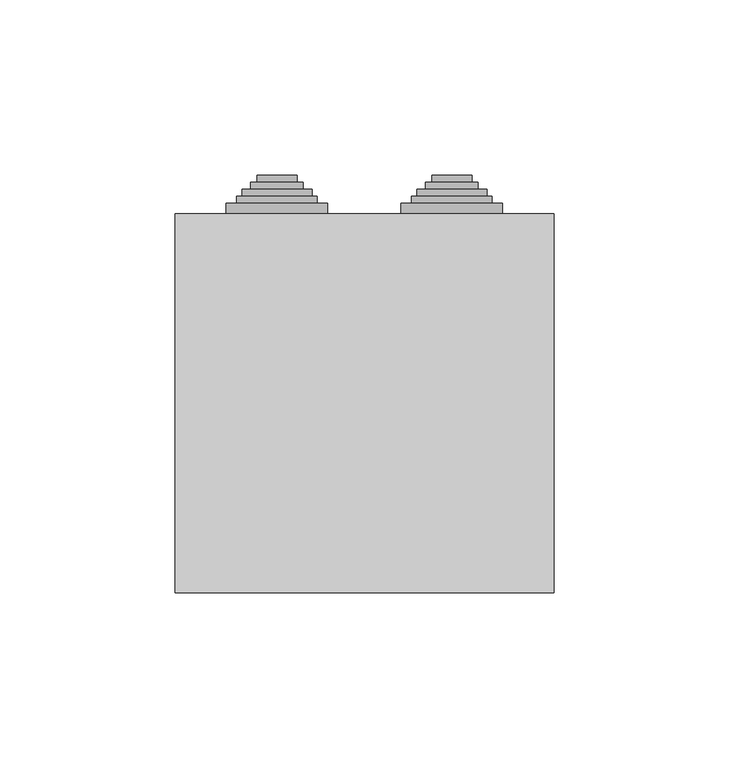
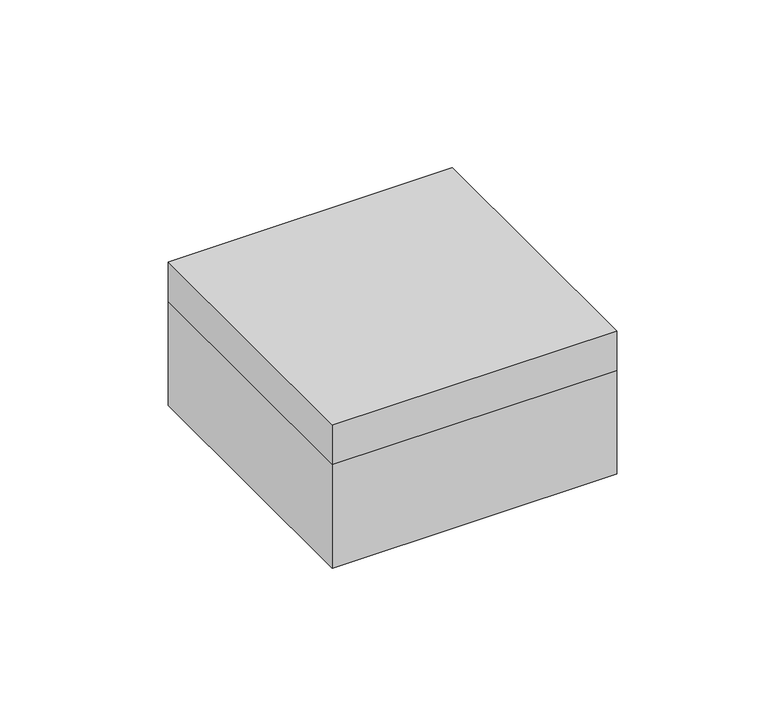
"""IFC4 building model written with IfcOpenShell, lengths in millimetres: cable carrier fitting geometry, КНС_КоробкаОтветвительнаяСКабельнымиВводами_8+2_IP55_DKC : с 8+2 кабельными вводами д.20/20мм, IP55,70х70х40мм."""

from ifc_helpers import new_model, si_unit, frame, origin, place, context, project, spatial, polyline, circle_curve, faceted_brep, source, transform, mapped, element, save
from ifc_brep_helpers import plane_surface, cylinder_surface, revolved_surface, advanced_brep


def cable_carrier_fitting_c96d8867(model_context):
    return source(origin(), model_context, "Body", "SolidModel", [
        advanced_brep(
        [(13.5, 52.2, 20.9), (36.5, 52.2, 20.9), (39.5, 52.2, 20.9), (10.5, 52.2, 20.9), (13.5, 54.2, 20.9), (36.5, 54.2, 20.9), (10.5, 54.2, 20.9), (39.5, 54.2, 20.9), (10.5, 57.2, 20.9), (39.5, 57.2, 20.9), (13.5, 57.2, 20.9), (36.5, 57.2, 20.9), (13.5, 59.2, 20.9), (36.5, 59.2, 20.9), (15.0, 59.2, 20.9), (35.0, 59.2, 20.9), (15.0, 61.2, 20.9), (35.0, 61.2, 20.9), (17.5, 61.2, 20.9), (32.5, 61.2, 20.9), (17.5, 63.2, 20.9), (32.5, 63.2, 20.9), (19.25, 63.2, 20.9), (30.75, 63.2, 20.9), (19.25, 65.2, 20.9), (30.75, 65.2, 20.9), (25.0, 65.2, 20.9), (13.5, 49.2, 20.9), (36.5, 49.2, 20.9), (25.0, 49.2, 20.9), (10.5, 49.9491137, 20.9), (39.5, 49.9491137, 20.9)],
        [
            (0, 1, circle_curve(frame((25.0, 52.2, 20.9), z_axis=(0.0, -1.0, 0.0), x_axis=(1.0, 0.0, 0.0)), 11.5)),
            (1, 2),
            (2, 3, circle_curve(frame((25.0, 52.2, 20.9), z_axis=(0.0, 1.0, 0.0), x_axis=(1.0, 0.0, 0.0)), 14.5)),
            (3, 0),
            (1, 0, circle_curve(frame((25.0, 52.2, 20.9), z_axis=(0.0, -1.0, 0.0), x_axis=(1.0, 0.0, 0.0)), 11.5)),
            (3, 2, circle_curve(frame((25.0, 52.2, 20.9), z_axis=(0.0, 1.0, 0.0), x_axis=(1.0, 0.0, 0.0)), 14.5)),
            (4, 5, circle_curve(frame((25.0, 54.2, 20.9), z_axis=(0.0, -1.0, 0.0), x_axis=(1.0, 0.0, 0.0)), 11.5)),
            (5, 1),
            (0, 4),
            (5, 4, circle_curve(frame((25.0, 54.2, 20.9), z_axis=(0.0, -1.0, 0.0), x_axis=(1.0, 0.0, 0.0)), 11.5)),
            (6, 7, circle_curve(frame((25.0, 54.2, 20.9), z_axis=(0.0, -1.0, 0.0), x_axis=(1.0, 0.0, 0.0)), 14.5)),
            (7, 5),
            (4, 6),
            (7, 6, circle_curve(frame((25.0, 54.2, 20.9), z_axis=(0.0, -1.0, 0.0), x_axis=(1.0, 0.0, 0.0)), 14.5)),
            (8, 9, circle_curve(frame((25.0, 57.2, 20.9), z_axis=(0.0, -1.0, 0.0), x_axis=(1.0, 0.0, 0.0)), 14.5)),
            (9, 7),
            (6, 8),
            (9, 8, circle_curve(frame((25.0, 57.2, 20.9), z_axis=(0.0, -1.0, 0.0), x_axis=(1.0, 0.0, 0.0)), 14.5)),
            (10, 11, circle_curve(frame((25.0, 57.2, 20.9), z_axis=(0.0, -1.0, 0.0), x_axis=(1.0, 0.0, 0.0)), 11.5)),
            (11, 9),
            (8, 10),
            (11, 10, circle_curve(frame((25.0, 57.2, 20.9), z_axis=(0.0, -1.0, 0.0), x_axis=(1.0, 0.0, 0.0)), 11.5)),
            (12, 13, circle_curve(frame((25.0, 59.2, 20.9), z_axis=(0.0, -1.0, 0.0), x_axis=(1.0, 0.0, 0.0)), 11.5)),
            (13, 11),
            (10, 12),
            (13, 12, circle_curve(frame((25.0, 59.2, 20.9), z_axis=(0.0, -1.0, 0.0), x_axis=(1.0, 0.0, 0.0)), 11.5)),
            (14, 15, circle_curve(frame((25.0, 59.2, 20.9), z_axis=(0.0, -1.0, 0.0), x_axis=(1.0, 0.0, 0.0)), 10.0)),
            (15, 13),
            (12, 14),
            (15, 14, circle_curve(frame((25.0, 59.2, 20.9), z_axis=(0.0, -1.0, 0.0), x_axis=(1.0, 0.0, 0.0)), 10.0)),
            (16, 17, circle_curve(frame((25.0, 61.2, 20.9), z_axis=(0.0, -1.0, 0.0), x_axis=(1.0, 0.0, 0.0)), 10.0)),
            (17, 15),
            (14, 16),
            (17, 16, circle_curve(frame((25.0, 61.2, 20.9), z_axis=(0.0, -1.0, 0.0), x_axis=(1.0, 0.0, 0.0)), 10.0)),
            (18, 19, circle_curve(frame((25.0, 61.2, 20.9), z_axis=(0.0, -1.0, 0.0), x_axis=(1.0, 0.0, 0.0)), 7.5)),
            (19, 17),
            (16, 18),
            (19, 18, circle_curve(frame((25.0, 61.2, 20.9), z_axis=(0.0, -1.0, 0.0), x_axis=(1.0, 0.0, 0.0)), 7.5)),
            (20, 21, circle_curve(frame((25.0, 63.2, 20.9), z_axis=(0.0, -1.0, 0.0), x_axis=(1.0, 0.0, 0.0)), 7.5)),
            (21, 19),
            (18, 20),
            (21, 20, circle_curve(frame((25.0, 63.2, 20.9), z_axis=(0.0, -1.0, 0.0), x_axis=(1.0, 0.0, 0.0)), 7.5)),
            (22, 23, circle_curve(frame((25.0, 63.2, 20.9), z_axis=(0.0, -1.0, 0.0), x_axis=(1.0, 0.0, 0.0)), 5.75)),
            (23, 21),
            (20, 22),
            (23, 22, circle_curve(frame((25.0, 63.2, 20.9), z_axis=(0.0, -1.0, 0.0), x_axis=(1.0, 0.0, 0.0)), 5.75)),
            (24, 25, circle_curve(frame((25.0, 65.2, 20.9), z_axis=(0.0, -1.0, 0.0), x_axis=(1.0, 0.0, 0.0)), 5.75)),
            (25, 23),
            (22, 24),
            (25, 24, circle_curve(frame((25.0, 65.2, 20.9), z_axis=(0.0, -1.0, 0.0), x_axis=(1.0, 0.0, 0.0)), 5.75)),
            (26, 25),
            (24, 26),
            (27, 28, circle_curve(frame((25.0, 49.2, 20.9), z_axis=(0.0, -1.0, 0.0), x_axis=(1.0, 0.0, 0.0)), 11.5)),
            (28, 29),
            (29, 27),
            (28, 27, circle_curve(frame((25.0, 49.2, 20.9), z_axis=(0.0, -1.0, 0.0), x_axis=(1.0, 0.0, 0.0)), 11.5)),
            (30, 31, circle_curve(frame((25.0, 49.9491137, 20.9), z_axis=(0.0, -1.0, 0.0), x_axis=(1.0, 0.0, 0.0)), 14.5)),
            (31, 28),
            (27, 30),
            (31, 30, circle_curve(frame((25.0, 49.9491137, 20.9), z_axis=(0.0, -1.0, 0.0), x_axis=(1.0, 0.0, 0.0)), 14.5)),
            (2, 31),
            (30, 3),
        ],
        [
            plane_surface(frame((25.0, 52.2, 20.9), z_axis=(0.0, 1.0, 0.0), x_axis=(1.0, 0.0, 0.0))),
            cylinder_surface(frame((25.0, -1460.8, 20.9), z_axis=(0.0, 1.0, 0.0), x_axis=(1.0, 0.0, 0.0)), 11.5),
            plane_surface(frame((25.0, 54.2, 20.9), z_axis=(0.0, -1.0, 0.0), x_axis=(1.0, 0.0, 0.0))),
            cylinder_surface(frame((25.0, -1460.8, 20.9), z_axis=(0.0, 1.0, 0.0), x_axis=(1.0, 0.0, 0.0)), 14.5),
            plane_surface(frame((25.0, 57.2, 20.9), z_axis=(0.0, 1.0, 0.0), x_axis=(1.0, 0.0, 0.0))),
            plane_surface(frame((25.0, 59.2, 20.9), z_axis=(0.0, 1.0, 0.0), x_axis=(1.0, 0.0, 0.0))),
            cylinder_surface(frame((25.0, -1460.8, 20.9), z_axis=(0.0, 1.0, 0.0), x_axis=(1.0, 0.0, 0.0)), 10.0),
            plane_surface(frame((25.0, 61.2, 20.9), z_axis=(0.0, 1.0, 0.0), x_axis=(1.0, 0.0, 0.0))),
            cylinder_surface(frame((25.0, -1460.8, 20.9), z_axis=(0.0, 1.0, 0.0), x_axis=(1.0, 0.0, 0.0)), 7.5),
            plane_surface(frame((25.0, 63.2, 20.9), z_axis=(0.0, 1.0, 0.0), x_axis=(1.0, 0.0, 0.0))),
            cylinder_surface(frame((25.0, -1460.8, 20.9), z_axis=(0.0, 1.0, 0.0), x_axis=(1.0, 0.0, 0.0)), 5.75),
            plane_surface(frame((25.0, 65.2, 20.9), z_axis=(0.0, 1.0, 0.0), x_axis=(1.0, 0.0, 0.0))),
            plane_surface(frame((25.0, 49.2, 20.9), z_axis=(0.0, -1.0, 0.0), x_axis=(1.0, 0.0, 0.0))),
            revolved_surface(polyline([(36.5, 49.2, 20.9), (39.5, 49.9491137, 20.9)]), (25.0, -1460.8, 20.9), (0.0, 1.0, 0.0)),
        ],
        [
            (0, [[1, 2, 3, 4]]),
            (0, [[5, -4, 6, -2]]),
            (1, [[7, 8, -1, 9]]),
            (1, [[10, -9, -5, -8]]),
            (2, [[11, 12, -7, 13]]),
            (2, [[14, -13, -10, -12]]),
            (3, [[15, 16, -11, 17]]),
            (3, [[18, -17, -14, -16]]),
            (4, [[19, 20, -15, 21]]),
            (4, [[22, -21, -18, -20]]),
            (1, [[23, 24, -19, 25]]),
            (1, [[26, -25, -22, -24]]),
            (5, [[27, 28, -23, 29]]),
            (5, [[30, -29, -26, -28]]),
            (6, [[31, 32, -27, 33]]),
            (6, [[34, -33, -30, -32]]),
            (7, [[35, 36, -31, 37]]),
            (7, [[38, -37, -34, -36]]),
            (8, [[39, 40, -35, 41]]),
            (8, [[42, -41, -38, -40]]),
            (9, [[43, 44, -39, 45]]),
            (9, [[46, -45, -42, -44]]),
            (10, [[47, 48, -43, 49]]),
            (10, [[50, -49, -46, -48]]),
            (11, [[51, -47, 52]]),
            (11, [[-52, -50, -51]]),
            (12, [[53, 54, 55]]),
            (12, [[56, -55, -54]]),
            (13, [[57, 58, -53, 59]]),
            (13, [[60, -59, -56, -58]]),
            (3, [[-3, 61, -57, 62]]),
            (3, [[-6, -62, -60, -61]]),
        ],
    ),
        advanced_brep(
        [(-36.5, 52.2, 20.9), (-13.5, 52.2, 20.9), (-10.5, 52.2, 20.9), (-39.5, 52.2, 20.9), (-36.5, 54.2, 20.9), (-13.5, 54.2, 20.9), (-39.5, 54.2, 20.9), (-10.5, 54.2, 20.9), (-39.5, 57.2, 20.9), (-10.5, 57.2, 20.9), (-36.5, 57.2, 20.9), (-13.5, 57.2, 20.9), (-36.5, 59.2, 20.9), (-13.5, 59.2, 20.9), (-35.0, 59.2, 20.9), (-15.0, 59.2, 20.9), (-35.0, 61.2, 20.9), (-15.0, 61.2, 20.9), (-32.5, 61.2, 20.9), (-17.5, 61.2, 20.9), (-32.5, 63.2, 20.9), (-17.5, 63.2, 20.9), (-30.75, 63.2, 20.9), (-19.25, 63.2, 20.9), (-30.75, 65.2, 20.9), (-19.25, 65.2, 20.9), (-25.0, 65.2, 20.9), (-36.5, 49.2, 20.9), (-13.5, 49.2, 20.9), (-25.0, 49.2, 20.9), (-39.5, 49.9491137, 20.9), (-10.5, 49.9491137, 20.9)],
        [
            (0, 1, circle_curve(frame((-25.0, 52.2, 20.9), z_axis=(0.0, -1.0, 0.0), x_axis=(1.0000000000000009, 0.0, 0.0)), 11.5)),
            (1, 2),
            (2, 3, circle_curve(frame((-25.0, 52.2, 20.9), z_axis=(0.0, 1.0, 0.0), x_axis=(1.0000000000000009, 0.0, 0.0)), 14.5)),
            (3, 0),
            (1, 0, circle_curve(frame((-25.0, 52.2, 20.9), z_axis=(0.0, -1.0, 0.0), x_axis=(1.0000000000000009, 0.0, 0.0)), 11.5)),
            (3, 2, circle_curve(frame((-25.0, 52.2, 20.9), z_axis=(0.0, 1.0, 0.0), x_axis=(1.0000000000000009, 0.0, 0.0)), 14.5)),
            (4, 5, circle_curve(frame((-25.0, 54.2, 20.9), z_axis=(0.0, -1.0, 0.0), x_axis=(1.0000000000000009, 0.0, 0.0)), 11.5)),
            (5, 1),
            (0, 4),
            (5, 4, circle_curve(frame((-25.0, 54.2, 20.9), z_axis=(0.0, -1.0, 0.0), x_axis=(1.0000000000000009, 0.0, 0.0)), 11.5)),
            (6, 7, circle_curve(frame((-25.0, 54.2, 20.9), z_axis=(0.0, -1.0, 0.0), x_axis=(1.0000000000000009, 0.0, 0.0)), 14.5)),
            (7, 5),
            (4, 6),
            (7, 6, circle_curve(frame((-25.0, 54.2, 20.9), z_axis=(0.0, -1.0, 0.0), x_axis=(1.0000000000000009, 0.0, 0.0)), 14.5)),
            (8, 9, circle_curve(frame((-25.0, 57.2, 20.9), z_axis=(0.0, -1.0, 0.0), x_axis=(1.0000000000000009, 0.0, 0.0)), 14.5)),
            (9, 7),
            (6, 8),
            (9, 8, circle_curve(frame((-25.0, 57.2, 20.9), z_axis=(0.0, -1.0, 0.0), x_axis=(1.0000000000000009, 0.0, 0.0)), 14.5)),
            (10, 11, circle_curve(frame((-25.0, 57.2, 20.9), z_axis=(0.0, -1.0, 0.0), x_axis=(1.0000000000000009, 0.0, 0.0)), 11.5)),
            (11, 9),
            (8, 10),
            (11, 10, circle_curve(frame((-25.0, 57.2, 20.9), z_axis=(0.0, -1.0, 0.0), x_axis=(1.0000000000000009, 0.0, 0.0)), 11.5)),
            (12, 13, circle_curve(frame((-25.0, 59.2, 20.9), z_axis=(0.0, -1.0, 0.0), x_axis=(1.0000000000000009, 0.0, 0.0)), 11.5)),
            (13, 11),
            (10, 12),
            (13, 12, circle_curve(frame((-25.0, 59.2, 20.9), z_axis=(0.0, -1.0, 0.0), x_axis=(1.0000000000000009, 0.0, 0.0)), 11.5)),
            (14, 15, circle_curve(frame((-25.0, 59.2, 20.9), z_axis=(0.0, -1.0, 0.0), x_axis=(1.0000000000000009, 0.0, 0.0)), 10.0)),
            (15, 13),
            (12, 14),
            (15, 14, circle_curve(frame((-25.0, 59.2, 20.9), z_axis=(0.0, -1.0, 0.0), x_axis=(1.0000000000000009, 0.0, 0.0)), 10.0)),
            (16, 17, circle_curve(frame((-25.0, 61.2, 20.9), z_axis=(0.0, -1.0, 0.0), x_axis=(1.0000000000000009, 0.0, 0.0)), 10.0)),
            (17, 15),
            (14, 16),
            (17, 16, circle_curve(frame((-25.0, 61.2, 20.9), z_axis=(0.0, -1.0, 0.0), x_axis=(1.0000000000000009, 0.0, 0.0)), 10.0)),
            (18, 19, circle_curve(frame((-25.0, 61.2, 20.9), z_axis=(0.0, -1.0, 0.0), x_axis=(1.0000000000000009, 0.0, 0.0)), 7.5)),
            (19, 17),
            (16, 18),
            (19, 18, circle_curve(frame((-25.0, 61.2, 20.9), z_axis=(0.0, -1.0, 0.0), x_axis=(1.0000000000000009, 0.0, 0.0)), 7.5)),
            (20, 21, circle_curve(frame((-25.0, 63.2, 20.9), z_axis=(0.0, -1.0, 0.0), x_axis=(1.0000000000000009, 0.0, 0.0)), 7.5)),
            (21, 19),
            (18, 20),
            (21, 20, circle_curve(frame((-25.0, 63.2, 20.9), z_axis=(0.0, -1.0, 0.0), x_axis=(1.0000000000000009, 0.0, 0.0)), 7.5)),
            (22, 23, circle_curve(frame((-25.0, 63.2, 20.9), z_axis=(0.0, -1.0, 0.0), x_axis=(1.0000000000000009, 0.0, 0.0)), 5.75)),
            (23, 21),
            (20, 22),
            (23, 22, circle_curve(frame((-25.0, 63.2, 20.9), z_axis=(0.0, -1.0, 0.0), x_axis=(1.0000000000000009, 0.0, 0.0)), 5.75)),
            (24, 25, circle_curve(frame((-25.0, 65.2, 20.9), z_axis=(0.0, -1.0, 0.0), x_axis=(1.0000000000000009, 0.0, 0.0)), 5.75)),
            (25, 23),
            (22, 24),
            (25, 24, circle_curve(frame((-25.0, 65.2, 20.9), z_axis=(0.0, -1.0, 0.0), x_axis=(1.0000000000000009, 0.0, 0.0)), 5.75)),
            (26, 25),
            (24, 26),
            (27, 28, circle_curve(frame((-25.0, 49.2, 20.9), z_axis=(0.0, -1.0, 0.0), x_axis=(1.0000000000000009, 0.0, 0.0)), 11.5)),
            (28, 29),
            (29, 27),
            (28, 27, circle_curve(frame((-25.0, 49.2, 20.9), z_axis=(0.0, -1.0, 0.0), x_axis=(1.0000000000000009, 0.0, 0.0)), 11.5)),
            (30, 31, circle_curve(frame((-25.0, 49.9491137, 20.9), z_axis=(0.0, -1.0, 0.0), x_axis=(1.0000000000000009, 0.0, 0.0)), 14.5)),
            (31, 28),
            (27, 30),
            (31, 30, circle_curve(frame((-25.0, 49.9491137, 20.9), z_axis=(0.0, -1.0, 0.0), x_axis=(1.0000000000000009, 0.0, 0.0)), 14.5)),
            (2, 31),
            (30, 3),
        ],
        [
            plane_surface(frame((-25.0, 52.2, 20.9), z_axis=(0.0, 1.0, 0.0), x_axis=(1.0, 0.0, 0.0))),
            cylinder_surface(frame((-25.0, -1460.8, 20.9), z_axis=(0.0, 1.0000000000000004, 0.0), x_axis=(1.0000000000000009, 0.0, 0.0)), 11.5),
            plane_surface(frame((-25.0, 54.2, 20.9), z_axis=(0.0, -1.0, 0.0), x_axis=(1.0, 0.0, 0.0))),
            cylinder_surface(frame((-25.0, -1460.8, 20.9), z_axis=(0.0, 1.0000000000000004, 0.0), x_axis=(1.0000000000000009, 0.0, 0.0)), 14.5),
            plane_surface(frame((-25.0, 57.2, 20.9), z_axis=(0.0, 1.0, 0.0), x_axis=(1.0, 0.0, 0.0))),
            plane_surface(frame((-25.0, 59.2, 20.9), z_axis=(0.0, 1.0, 0.0), x_axis=(1.0, 0.0, 0.0))),
            cylinder_surface(frame((-25.0, -1460.8, 20.9), z_axis=(0.0, 1.0000000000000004, 0.0), x_axis=(1.0000000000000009, 0.0, 0.0)), 10.0),
            plane_surface(frame((-25.0, 61.2, 20.9), z_axis=(0.0, 1.0, 0.0), x_axis=(1.0, 0.0, 0.0))),
            cylinder_surface(frame((-25.0, -1460.8, 20.9), z_axis=(0.0, 1.0000000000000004, 0.0), x_axis=(1.0000000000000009, 0.0, 0.0)), 7.5),
            plane_surface(frame((-25.0, 63.2, 20.9), z_axis=(0.0, 1.0, 0.0), x_axis=(1.0, 0.0, 0.0))),
            cylinder_surface(frame((-25.0, -1460.8, 20.9), z_axis=(0.0, 1.0000000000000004, 0.0), x_axis=(1.0000000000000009, 0.0, 0.0)), 5.75),
            plane_surface(frame((-25.0, 65.2, 20.9), z_axis=(0.0, 1.0, 0.0), x_axis=(1.0, 0.0, 0.0))),
            plane_surface(frame((-25.0, 49.2, 20.9), z_axis=(0.0, -1.0, 0.0), x_axis=(1.0, 0.0, 0.0))),
            revolved_surface(polyline([(-13.5, 49.2, 20.9), (-10.5, 49.9491137, 20.9)]), (-25.0, -1460.8, 20.9), (0.0, 1.0000000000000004, 0.0)),
        ],
        [
            (0, [[1, 2, 3, 4]]),
            (0, [[5, -4, 6, -2]]),
            (1, [[7, 8, -1, 9]]),
            (1, [[10, -9, -5, -8]]),
            (2, [[11, 12, -7, 13]]),
            (2, [[14, -13, -10, -12]]),
            (3, [[15, 16, -11, 17]]),
            (3, [[18, -17, -14, -16]]),
            (4, [[19, 20, -15, 21]]),
            (4, [[22, -21, -18, -20]]),
            (1, [[23, 24, -19, 25]]),
            (1, [[26, -25, -22, -24]]),
            (5, [[27, 28, -23, 29]]),
            (5, [[30, -29, -26, -28]]),
            (6, [[31, 32, -27, 33]]),
            (6, [[34, -33, -30, -32]]),
            (7, [[35, 36, -31, 37]]),
            (7, [[38, -37, -34, -36]]),
            (8, [[39, 40, -35, 41]]),
            (8, [[42, -41, -38, -40]]),
            (9, [[43, 44, -39, 45]]),
            (9, [[46, -45, -42, -44]]),
            (10, [[47, 48, -43, 49]]),
            (10, [[50, -49, -46, -48]]),
            (11, [[51, -47, 52]]),
            (11, [[-52, -50, -51]]),
            (12, [[53, 54, 55]]),
            (12, [[56, -55, -54]]),
            (13, [[57, 58, -53, 59]]),
            (13, [[60, -59, -56, -58]]),
            (3, [[-3, 61, -57, 62]]),
            (3, [[-6, -62, -60, -61]]),
        ],
    ),
        faceted_brep([(54.2, 54.2, 57.8), (-54.2, 54.2, 57.8), (-54.2, -54.2, 57.8), (54.2, -54.2, 57.8), (-52.2, -52.2, 55.8), (-52.2, 52.2, 55.8), (52.2, 52.2, 55.8), (52.2, -52.2, 55.8), (54.2, 54.2, 41.8), (54.2, -54.2, 41.8), (-54.2, -54.2, 41.8), (-54.2, 54.2, 41.8), (-52.2, -52.2, 41.8), (52.2, -52.2, 41.8), (52.2, 52.2, 41.8), (-52.2, 52.2, 41.8)], [[[0, 1, 2, 3]], [[4, 5, 6, 7]], [[8, 9, 10, 11], [12, 13, 14, 15]], [[1, 0, 8, 11]], [[2, 1, 11, 10]], [[3, 2, 10, 9]], [[0, 3, 9, 8]], [[12, 15, 5, 4]], [[15, 14, 6, 5]], [[14, 13, 7, 6]], [[13, 12, 4, 7]]]),
        advanced_brep(
        [(-52.2, -52.2, 2.0), (52.2, -52.2, 2.0), (52.2, 52.2, 2.0), (-52.2, 52.2, 2.0), (54.2, 54.2, 0.0), (54.2, -54.2, 0.0), (-54.2, -54.2, 0.0), (-54.2, 54.2, 0.0), (28.6, 0.0, 0.0), (48.6, 0.0, 0.0), (-48.6, 0.0, 0.0), (-28.6, 0.0, 0.0), (54.2, 54.2, 41.8), (-54.2, 54.2, 41.8), (-54.2, -54.2, 41.8), (54.2, -54.2, 41.8), (52.2, -52.2, 41.8), (-52.2, -52.2, 41.8), (-52.2, 52.2, 41.8), (52.2, 52.2, 41.8), (28.6, 0.0, 1.0), (48.6, 0.0, 1.0), (-48.6, 0.0, 1.0), (-28.6, 0.0, 1.0)],
        [
            (0, 1),
            (1, 2),
            (2, 3),
            (3, 0),
            (4, 5),
            (5, 6),
            (6, 7),
            (7, 4),
            (8, 9, circle_curve(frame((38.6, 0.0, 0.0), z_axis=(0.0, 0.0, 1.0), x_axis=(1.0, 0.0, 0.0)), 10.0)),
            (9, 8, circle_curve(frame((38.6, 0.0, 0.0), z_axis=(0.0, 0.0, 1.0), x_axis=(1.0, 0.0, 0.0)), 10.0)),
            (10, 11, circle_curve(frame((-38.6, 0.0, 0.0), z_axis=(0.0, 0.0, 1.0), x_axis=(1.0, 0.0, 0.0)), 10.0)),
            (11, 10, circle_curve(frame((-38.6, 0.0, 0.0), z_axis=(0.0, 0.0, 1.0), x_axis=(1.0, 0.0, 0.0)), 10.0)),
            (12, 13),
            (13, 14),
            (14, 15),
            (15, 12),
            (16, 17),
            (17, 18),
            (18, 19),
            (19, 16),
            (12, 4),
            (7, 13),
            (6, 14),
            (5, 15),
            (16, 1),
            (0, 17),
            (3, 18),
            (2, 19),
            (20, 21, circle_curve(frame((38.6, 0.0, 1.0), z_axis=(0.0, 0.0, -1.0), x_axis=(1.0, 0.0, 0.0)), 10.0)),
            (21, 20, circle_curve(frame((38.6, 0.0, 1.0), z_axis=(0.0, 0.0, -1.0), x_axis=(1.0, 0.0, 0.0)), 10.0)),
            (22, 23, circle_curve(frame((-38.6, 0.0, 1.0), z_axis=(0.0, 0.0, -1.0), x_axis=(1.0, 0.0, 0.0)), 10.0)),
            (23, 22, circle_curve(frame((-38.6, 0.0, 1.0), z_axis=(0.0, 0.0, -1.0), x_axis=(1.0, 0.0, 0.0)), 10.0)),
            (21, 9),
            (8, 20),
            (23, 11),
            (10, 22),
        ],
        [
            plane_surface(frame((-52.2, 52.2, 2.0), z_axis=(0.0, 0.0, 1.0), x_axis=(-1.0, 0.0, 0.0))),
            plane_surface(frame((-52.2, 52.2, 0.0), z_axis=(0.0, 0.0, -1.0), x_axis=(1.0, 0.0, 0.0))),
            plane_surface(frame((-54.2, 54.2, 41.8), z_axis=(0.0, 0.0, 1.0), x_axis=(-1.0, 0.0, 0.0))),
            plane_surface(frame((54.2, 54.2, 41.8), z_axis=(0.0, 1.0, 0.0), x_axis=(0.0, 0.0, -1.0))),
            plane_surface(frame((-54.2, 54.2, 41.8), z_axis=(-1.0, 0.0, 0.0), x_axis=(0.0, 0.0, -1.0))),
            plane_surface(frame((-54.2, -54.2, 41.8), z_axis=(0.0, -1.0, 0.0), x_axis=(0.0, 0.0, -1.0))),
            plane_surface(frame((54.2, -54.2, 41.8), z_axis=(1.0, 0.0, 0.0), x_axis=(0.0, 0.0, -1.0))),
            plane_surface(frame((52.2, -52.2, 41.8), z_axis=(0.0, 1.0, 0.0), x_axis=(0.0, 0.0, -1.0))),
            plane_surface(frame((-52.2, -52.2, 41.8), z_axis=(1.0, 0.0, 0.0), x_axis=(0.0, 0.0, -1.0))),
            plane_surface(frame((-52.2, 52.2, 41.8), z_axis=(0.0, -1.0, 0.0), x_axis=(0.0, 0.0, -1.0))),
            plane_surface(frame((52.2, 52.2, 41.8), z_axis=(-1.0, 0.0, 0.0), x_axis=(0.0, 0.0, -1.0))),
            plane_surface(frame((48.6, 0.0, 1.0), z_axis=(0.0, 0.0, -1.0), x_axis=(0.0, 1.0, 0.0))),
            revolved_surface(polyline([(48.6, 0.0, 1.0), (48.6, 0.0, 0.0)]), (38.6, 0.0, 0.0), (0.0, 0.0, 1.0)),
            revolved_surface(polyline([(-28.6, 0.0, 1.0), (-28.6, 0.0, 0.0)]), (-38.6, 0.0, 0.0), (0.0, 0.0, 1.0)),
        ],
        [
            (0, [[1, 2, 3, 4]]),
            (1, [[5, 6, 7, 8], [9, 10], [11, 12]]),
            (2, [[13, 14, 15, 16], [17, 18, 19, 20]]),
            (3, [[-13, 21, -8, 22]]),
            (4, [[-14, -22, -7, 23]]),
            (5, [[-15, -23, -6, 24]]),
            (6, [[-16, -24, -5, -21]]),
            (7, [[-17, 25, -1, 26]]),
            (8, [[-18, -26, -4, 27]]),
            (9, [[-19, -27, -3, 28]]),
            (10, [[-20, -28, -2, -25]]),
            (11, [[29, 30]]),
            (11, [[31, 32]]),
            (12, [[-30, 33, -9, 34]]),
            (12, [[-29, -34, -10, -33]]),
            (13, [[-32, 35, -11, 36]]),
            (13, [[-31, -36, -12, -35]]),
        ],
    ),
    ])


if __name__ == "__main__":
    model = new_model("IFC4")
    model_context = context("Model", 3, world=origin())
    ifc_project = project(units=[si_unit("LENGTHUNIT", "METRE", prefix="MILLI")], contexts=[model_context])
    site = spatial("IfcSite", under=ifc_project)
    building = spatial("IfcBuilding", under=site)
    placement = place(None, origin())
    cable_carrier_fitting_shape = cable_carrier_fitting_c96d8867(model_context)
    element("IfcCableCarrierFitting", 1, ObjectType="КНС_КоробкаОтветвительнаяСКабельнымиВводами_8+2_IP55_DKC : с 8+2 кабельными вводами д.20/20мм, IP55,70х70х40мм", at=placement, inside=building, context=model_context, shape_type="MappedRepresentation", body=[
        mapped(cable_carrier_fitting_shape, transform((0.0, 0.0, 0.0), x_axis=(1.0, 0.0, 0.0), y_axis=(0.0, 1.0, 0.0), z_axis=(0.0, 0.0, 1.0))),
    ])
    save(model, "model.ifc")
